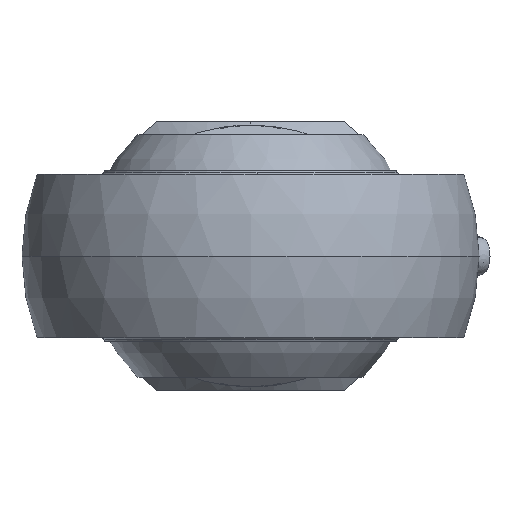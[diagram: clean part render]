
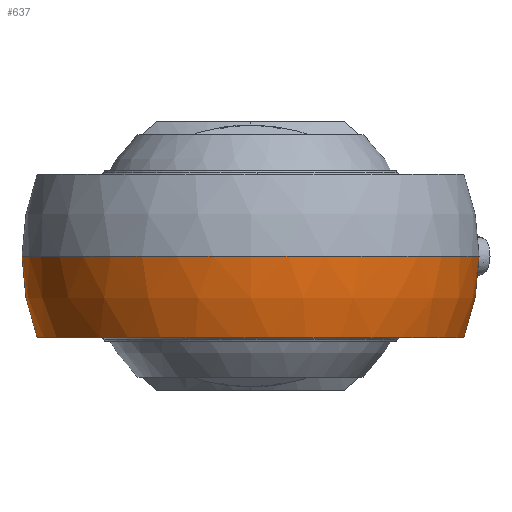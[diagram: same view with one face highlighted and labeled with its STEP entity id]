
A CAD part, left-side view. The second image highlights one B-rep face of the part: STEP entity #637.
In plain terms, the highlighted spherical face has radius 35 mm.
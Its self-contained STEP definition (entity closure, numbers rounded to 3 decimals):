
#566 = VERTEX_POINT ( 'NONE', #2283 ) ;
#570 = ORIENTED_EDGE ( 'NONE', *, *, #571, .T. ) ;
#571 = EDGE_CURVE ( 'NONE', #566, #573, #2351, .T. ) ;
#572 = ORIENTED_EDGE ( 'NONE', *, *, #574, .T. ) ;
#573 = VERTEX_POINT ( 'NONE', #2347 ) ;
#574 = EDGE_CURVE ( 'NONE', #573, #584, #2346, .T. ) ;
#576 = ORIENTED_EDGE ( 'NONE', *, *, #577, .F. ) ;
#577 = EDGE_CURVE ( 'NONE', #566, #578, #2334, .T. ) ;
#578 = VERTEX_POINT ( 'NONE', #2329 ) ;
#579 = VERTEX_POINT ( 'NONE', #2328 ) ;
#580 = EDGE_CURVE ( 'NONE', #579, #578, #2376, .T. ) ;
#581 = ORIENTED_EDGE ( 'NONE', *, *, #580, .T. ) ;
#584 = VERTEX_POINT ( 'NONE', #2366 ) ;
#634 = EDGE_CURVE ( 'NONE', #584, #579, #2465, .T. ) ;
#635 = EDGE_LOOP ( 'NONE', ( #636, #581, #576, #570, #572 ) ) ;
#636 = ORIENTED_EDGE ( 'NONE', *, *, #634, .T. ) ;
#637 = ADVANCED_FACE ( 'NONE', ( #2521 ), #2520, .T. ) ;
#1718 = DIRECTION ( 'NONE',  ( -1., 0., 0. ) ) ;
#1985 = DIRECTION ( 'NONE',  ( 0., 0., 1. ) ) ;
#2283 = CARTESIAN_POINT ( 'NONE',  ( 13.659, 32.225, 0. ) ) ;
#2328 = CARTESIAN_POINT ( 'NONE',  ( 13.659, -32.225, 0. ) ) ;
#2329 = CARTESIAN_POINT ( 'NONE',  ( -35., 0., 0. ) ) ;
#2330 = DIRECTION ( 'NONE',  ( 1., 0., 0. ) ) ;
#2331 = DIRECTION ( 'NONE',  ( 0., 0., 1. ) ) ;
#2332 = CARTESIAN_POINT ( 'NONE',  ( 0., 0., 0. ) ) ;
#2333 = AXIS2_PLACEMENT_3D ( 'NONE', #2332, #2331, #2330 ) ;
#2334 = CIRCLE ( 'NONE', #2333, 35. ) ;
#2342 = DIRECTION ( 'NONE',  ( 1., 0., 0. ) ) ;
#2343 = DIRECTION ( 'NONE',  ( 0., 0., 1. ) ) ;
#2344 = CARTESIAN_POINT ( 'NONE',  ( 0., 0., -12.5 ) ) ;
#2345 = AXIS2_PLACEMENT_3D ( 'NONE', #2344, #2343, #2342 ) ;
#2346 = CIRCLE ( 'NONE', #2345, 32.692 ) ;
#2347 = CARTESIAN_POINT ( 'NONE',  ( 13.659, 29.702, -12.5 ) ) ;
#2348 = DIRECTION ( 'NONE',  ( 0., 0., 1. ) ) ;
#2349 = DIRECTION ( 'NONE',  ( -1., 0., 0. ) ) ;
#2350 = AXIS2_PLACEMENT_3D ( 'NONE', #2357, #2349, #2348 ) ;
#2351 = CIRCLE ( 'NONE', #2350, 32.225 ) ;
#2357 = CARTESIAN_POINT ( 'NONE',  ( 13.659, 0., 0. ) ) ;
#2366 = CARTESIAN_POINT ( 'NONE',  ( 13.659, -29.702, -12.5 ) ) ;
#2372 = DIRECTION ( 'NONE',  ( 0., 1., 0. ) ) ;
#2373 = DIRECTION ( 'NONE',  ( 0., 0., -1. ) ) ;
#2374 = CARTESIAN_POINT ( 'NONE',  ( 0., 0., 0. ) ) ;
#2375 = AXIS2_PLACEMENT_3D ( 'NONE', #2374, #2373, #2372 ) ;
#2376 = CIRCLE ( 'NONE', #2375, 35. ) ;
#2459 = CARTESIAN_POINT ( 'NONE',  ( 13.659, 0., 0. ) ) ;
#2460 = AXIS2_PLACEMENT_3D ( 'NONE', #2459, #1718, #1985 ) ;
#2465 = CIRCLE ( 'NONE', #2460, 32.225 ) ;
#2515 = DIRECTION ( 'NONE',  ( 0., 1., 0. ) ) ;
#2516 = DIRECTION ( 'NONE',  ( 0., 0., -1. ) ) ;
#2517 = AXIS2_PLACEMENT_3D ( 'NONE', #2519, #2516, #2515 ) ;
#2519 = CARTESIAN_POINT ( 'NONE',  ( 0., 0., 0. ) ) ;
#2520 = SPHERICAL_SURFACE ( 'NONE', #2517, 35. ) ;
#2521 = FACE_OUTER_BOUND ( 'NONE', #635, .T. ) ;
